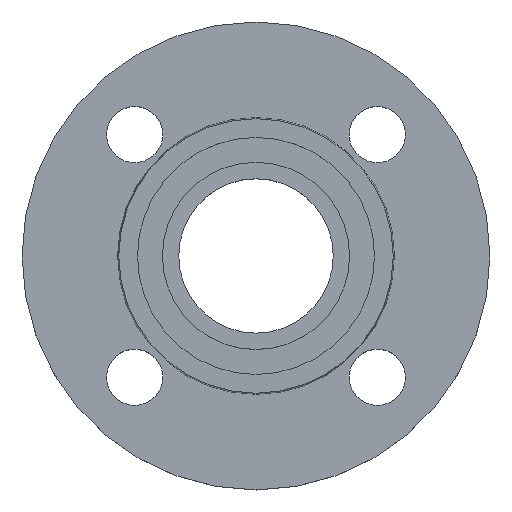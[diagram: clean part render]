
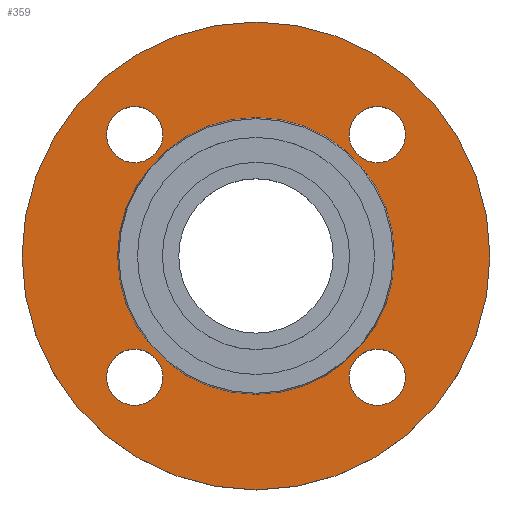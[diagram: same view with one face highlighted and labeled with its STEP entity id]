
A CAD part, top view. The second image highlights one B-rep face of the part: STEP entity #359.
In plain terms, the highlighted planar face has unit normal (0, 0, 1).
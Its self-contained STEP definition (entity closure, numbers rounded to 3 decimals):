
#2 = AXIS2_PLACEMENT_3D ( 'NONE', #583, #584, #585 ) ;
#3 = EDGE_CURVE ( 'NONE', #516, #547, #93, .T. ) ;
#8 = CIRCLE ( 'NONE', #9, 75. ) ;
#9 = AXIS2_PLACEMENT_3D ( 'NONE', #590, #591, #592 ) ;
#11 = CIRCLE ( 'NONE', #13, 9. ) ;
#12 = EDGE_CURVE ( 'NONE', #446, #383, #8, .T. ) ;
#13 = AXIS2_PLACEMENT_3D ( 'NONE', #597, #598, #599 ) ;
#22 = CARTESIAN_POINT ( 'NONE',  ( 38.891, -38.891, -2. ) ) ;
#23 = CIRCLE ( 'NONE', #25, 75. ) ;
#25 = AXIS2_PLACEMENT_3D ( 'NONE', #606, #607, #608 ) ;
#40 = DIRECTION ( 'NONE',  ( 1., 0., 0. ) ) ;
#47 = CIRCLE ( 'NONE', #49, 44.353 ) ;
#49 = AXIS2_PLACEMENT_3D ( 'NONE', #622, #623, #624 ) ;
#69 = EDGE_CURVE ( 'NONE', #548, #539, #11, .T. ) ;
#74 = DIRECTION ( 'NONE',  ( 1., 0., 0. ) ) ;
#76 = DIRECTION ( 'NONE',  ( 0., 0., -1. ) ) ;
#78 = CARTESIAN_POINT ( 'NONE',  ( -38.891, 38.891, -2. ) ) ;
#93 = CIRCLE ( 'NONE', #2, 9. ) ;
#94 = EDGE_CURVE ( 'NONE', #383, #446, #23, .T. ) ;
#99 = CARTESIAN_POINT ( 'NONE',  ( 47.891, -38.891, -2. ) ) ;
#101 = CARTESIAN_POINT ( 'NONE',  ( -29.891, 38.891, -2. ) ) ;
#103 = CARTESIAN_POINT ( 'NONE',  ( 44.353, 0., -2. ) ) ;
#110 = CARTESIAN_POINT ( 'NONE',  ( 29.891, -38.891, -2. ) ) ;
#112 = CARTESIAN_POINT ( 'NONE',  ( -47.891, -38.891, -2. ) ) ;
#113 = CARTESIAN_POINT ( 'NONE',  ( 47.891, 38.891, -2. ) ) ;
#124 = CARTESIAN_POINT ( 'NONE',  ( -29.891, -38.891, -2. ) ) ;
#128 = DIRECTION ( 'NONE',  ( -1., 0., 0. ) ) ;
#131 = DIRECTION ( 'NONE',  ( 0., 0., -1. ) ) ;
#132 = CARTESIAN_POINT ( 'NONE',  ( 0., 0., -2. ) ) ;
#135 = CARTESIAN_POINT ( 'NONE',  ( 29.891, 38.891, -2. ) ) ;
#138 = CARTESIAN_POINT ( 'NONE',  ( -44.353, 0., -2. ) ) ;
#146 = CARTESIAN_POINT ( 'NONE',  ( -75., 0., -2. ) ) ;
#153 = CIRCLE ( 'NONE', #221, 9. ) ;
#156 = EDGE_CURVE ( 'NONE', #567, #514, #47, .T. ) ;
#194 = DIRECTION ( 'NONE',  ( 0., 0., -1. ) ) ;
#205 = AXIS2_PLACEMENT_3D ( 'NONE', #270, #271, #273 ) ;
#208 = EDGE_CURVE ( 'NONE', #547, #516, #544, .T. ) ;
#221 = AXIS2_PLACEMENT_3D ( 'NONE', #22, #194, #40 ) ;
#225 = VERTEX_POINT ( 'NONE', #714 ) ;
#226 = CIRCLE ( 'NONE', #251, 9. ) ;
#229 = CARTESIAN_POINT ( 'NONE',  ( -38.891, -38.891, -2. ) ) ;
#230 = DIRECTION ( 'NONE',  ( 0., 0., -1. ) ) ;
#231 = DIRECTION ( 'NONE',  ( 1., 0., 0. ) ) ;
#251 = AXIS2_PLACEMENT_3D ( 'NONE', #78, #76, #74 ) ;
#261 = CIRCLE ( 'NONE', #205, 9. ) ;
#270 = CARTESIAN_POINT ( 'NONE',  ( -38.891, 38.891, -2. ) ) ;
#271 = DIRECTION ( 'NONE',  ( 0., 0., -1. ) ) ;
#273 = DIRECTION ( 'NONE',  ( 1., 0., 0. ) ) ;
#275 = EDGE_CURVE ( 'NONE', #577, #550, #343, .T. ) ;
#285 = EDGE_CURVE ( 'NONE', #539, #548, #323, .T. ) ;
#295 = AXIS2_PLACEMENT_3D ( 'NONE', #229, #230, #231 ) ;
#305 = EDGE_CURVE ( 'NONE', #225, #574, #261, .T. ) ;
#307 = CARTESIAN_POINT ( 'NONE',  ( 75., 0., -2. ) ) ;
#314 = FACE_BOUND ( 'NONE', #572, .T. ) ;
#315 = FACE_BOUND ( 'NONE', #562, .T. ) ;
#316 = FACE_BOUND ( 'NONE', #552, .T. ) ;
#317 = FACE_BOUND ( 'NONE', #557, .T. ) ;
#321 = FACE_BOUND ( 'NONE', #546, .T. ) ;
#322 = FACE_OUTER_BOUND ( 'NONE', #571, .T. ) ;
#323 = CIRCLE ( 'NONE', #295, 9. ) ;
#324 = PLANE ( 'NONE',  #505 ) ;
#325 = CARTESIAN_POINT ( 'NONE',  ( 44.353, 0., -2. ) ) ;
#327 = DIRECTION ( 'NONE',  ( 0., 0., 1. ) ) ;
#328 = DIRECTION ( 'NONE',  ( 1., 0., 0. ) ) ;
#343 = CIRCLE ( 'NONE', #396, 9. ) ;
#359 = ADVANCED_FACE ( 'NONE', ( #314, #315, #316, #317, #321, #322 ), #324, .T. ) ;
#378 = EDGE_CURVE ( 'NONE', #550, #577, #153, .T. ) ;
#383 = VERTEX_POINT ( 'NONE', #146 ) ;
#396 = AXIS2_PLACEMENT_3D ( 'NONE', #736, #737, #738 ) ;
#401 = AXIS2_PLACEMENT_3D ( 'NONE', #132, #131, #128 ) ;
#414 = AXIS2_PLACEMENT_3D ( 'NONE', #693, #694, #695 ) ;
#446 = VERTEX_POINT ( 'NONE', #307 ) ;
#447 = ORIENTED_EDGE ( 'NONE', *, *, #275, .T. ) ;
#448 = ORIENTED_EDGE ( 'NONE', *, *, #378, .T. ) ;
#452 = ORIENTED_EDGE ( 'NONE', *, *, #285, .T. ) ;
#453 = ORIENTED_EDGE ( 'NONE', *, *, #69, .T. ) ;
#454 = ORIENTED_EDGE ( 'NONE', *, *, #684, .T. ) ;
#455 = ORIENTED_EDGE ( 'NONE', *, *, #305, .T. ) ;
#456 = ORIENTED_EDGE ( 'NONE', *, *, #208, .T. ) ;
#457 = ORIENTED_EDGE ( 'NONE', *, *, #3, .T. ) ;
#458 = ORIENTED_EDGE ( 'NONE', *, *, #532, .T. ) ;
#459 = ORIENTED_EDGE ( 'NONE', *, *, #156, .T. ) ;
#460 = ORIENTED_EDGE ( 'NONE', *, *, #12, .F. ) ;
#461 = ORIENTED_EDGE ( 'NONE', *, *, #94, .F. ) ;
#505 = AXIS2_PLACEMENT_3D ( 'NONE', #325, #327, #328 ) ;
#514 = VERTEX_POINT ( 'NONE', #138 ) ;
#516 = VERTEX_POINT ( 'NONE', #135 ) ;
#532 = EDGE_CURVE ( 'NONE', #514, #567, #545, .T. ) ;
#539 = VERTEX_POINT ( 'NONE', #124 ) ;
#544 = CIRCLE ( 'NONE', #414, 9. ) ;
#545 = CIRCLE ( 'NONE', #401, 44.353 ) ;
#546 = EDGE_LOOP ( 'NONE', ( #458, #459 ) ) ;
#547 = VERTEX_POINT ( 'NONE', #113 ) ;
#548 = VERTEX_POINT ( 'NONE', #112 ) ;
#550 = VERTEX_POINT ( 'NONE', #110 ) ;
#552 = EDGE_LOOP ( 'NONE', ( #454, #455 ) ) ;
#557 = EDGE_LOOP ( 'NONE', ( #456, #457 ) ) ;
#562 = EDGE_LOOP ( 'NONE', ( #452, #453 ) ) ;
#567 = VERTEX_POINT ( 'NONE', #103 ) ;
#571 = EDGE_LOOP ( 'NONE', ( #460, #461 ) ) ;
#572 = EDGE_LOOP ( 'NONE', ( #447, #448 ) ) ;
#574 = VERTEX_POINT ( 'NONE', #101 ) ;
#577 = VERTEX_POINT ( 'NONE', #99 ) ;
#583 = CARTESIAN_POINT ( 'NONE',  ( 38.891, 38.891, -2. ) ) ;
#584 = DIRECTION ( 'NONE',  ( 0., 0., -1. ) ) ;
#585 = DIRECTION ( 'NONE',  ( 1., 0., 0. ) ) ;
#590 = CARTESIAN_POINT ( 'NONE',  ( 0., 0., -2. ) ) ;
#591 = DIRECTION ( 'NONE',  ( 0., 0., -1. ) ) ;
#592 = DIRECTION ( 'NONE',  ( -1., 0., 0. ) ) ;
#597 = CARTESIAN_POINT ( 'NONE',  ( -38.891, -38.891, -2. ) ) ;
#598 = DIRECTION ( 'NONE',  ( 0., 0., -1. ) ) ;
#599 = DIRECTION ( 'NONE',  ( 1., 0., 0. ) ) ;
#606 = CARTESIAN_POINT ( 'NONE',  ( 0., 0., -2. ) ) ;
#607 = DIRECTION ( 'NONE',  ( 0., 0., -1. ) ) ;
#608 = DIRECTION ( 'NONE',  ( -1., 0., 0. ) ) ;
#622 = CARTESIAN_POINT ( 'NONE',  ( 0., 0., -2. ) ) ;
#623 = DIRECTION ( 'NONE',  ( 0., 0., -1. ) ) ;
#624 = DIRECTION ( 'NONE',  ( -1., 0., 0. ) ) ;
#684 = EDGE_CURVE ( 'NONE', #574, #225, #226, .T. ) ;
#693 = CARTESIAN_POINT ( 'NONE',  ( 38.891, 38.891, -2. ) ) ;
#694 = DIRECTION ( 'NONE',  ( 0., 0., -1. ) ) ;
#695 = DIRECTION ( 'NONE',  ( 1., 0., 0. ) ) ;
#714 = CARTESIAN_POINT ( 'NONE',  ( -47.891, 38.891, -2. ) ) ;
#736 = CARTESIAN_POINT ( 'NONE',  ( 38.891, -38.891, -2. ) ) ;
#737 = DIRECTION ( 'NONE',  ( 0., 0., -1. ) ) ;
#738 = DIRECTION ( 'NONE',  ( 1., 0., 0. ) ) ;
